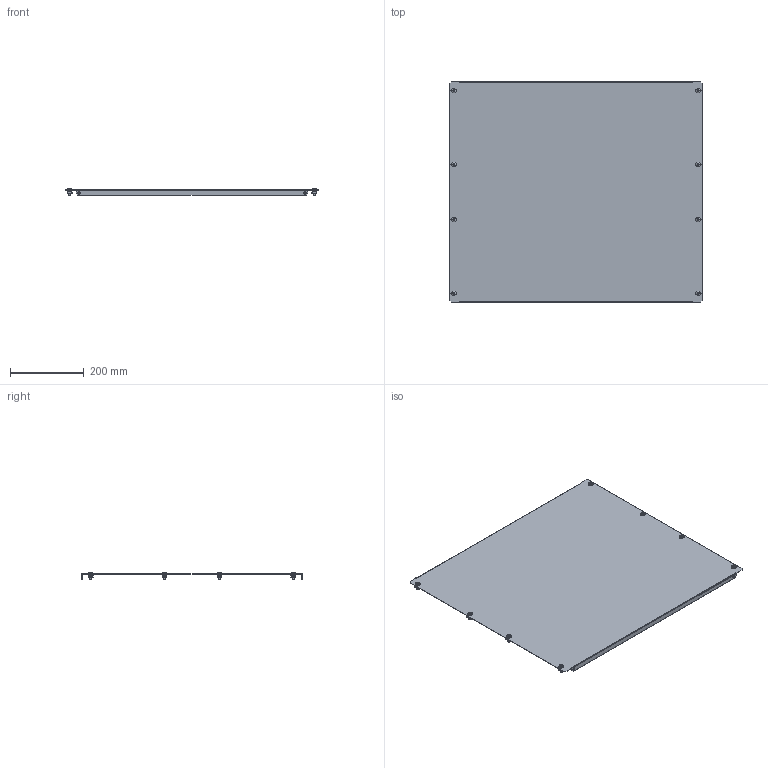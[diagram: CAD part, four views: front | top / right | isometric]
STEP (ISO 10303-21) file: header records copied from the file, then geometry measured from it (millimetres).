
FILE_DESCRIPTION (( 'STEP AP203' ), '1' );
FILE_NAME ('MA1.400.060000.01.00 Ïëàñòðîí Â600 Ø800 EKF AleSta-FP60M800.STEP', '2024-12-02T12:49:27', ( '' ), ( '' ), 'SwSTEP 2.0', 'SolidWorks 2021', '' );
FILE_SCHEMA (( 'CONFIG_CONTROL_DESIGN' ));
Length unit declared in the file: millimetre
Products named in the file (6): Ãàéêà çàêëàäíàÿ; Îáîëî÷êà ãàéêè çàêëàäíîé; pan head cross recess screw_din_DIN EN ISO 7045 - M6 x 16 - Z - 16N; MA1.400.060000.01.00 Ïëàñòðîí Â600 Ø800 EKF AleSta-FP60M800; MA1.400.060000.01.01 Ïëàñòðîí Â50 Ø600 EKF AleSta_Copy of Copy of ˜=800; Ãàéêà çàêëàäêàÿ Ì6
Assembly tree (19 placements, depth 3):
  MA1.400.060000.01.00 Ïëàñòðîí Â600 Ø800 EKF AleSta-FP60M800
    MA1.400.060000.01.01 Ïëàñòðîí Â50 Ø600 EKF AleSta_Copy of Copy of ˜=800
    Ãàéêà çàêëàäíàÿ  x8
      Îáîëî÷êà ãàéêè çàêëàäíîé
      Ãàéêà çàêëàäêàÿ Ì6
    pan head cross recess screw_din_DIN EN ISO 7045 - M6 x 16 - Z - 16N  x8
Bounding box: 686 x 599 x 20.48 mm (x, y, z)
Volume: 436179.3 mm3; surface area: 868935.1 mm2
Topology: 25 solids, 25 shells, 1330 faces, 2938 edges, 1666 vertices
Faces by surface type: plane 842, cylinder 280, bspline 128, cone 56, torus 16, sphere 8
Full cylindrical faces by diameter (mm): 6 x16, 6.5 x4, 7 x8, 12 x8
Entity records: 8220 total; most frequent: CARTESIAN_POINT 1773, DIRECTION 1122, ORIENTED_EDGE 1096, EDGE_CURVE 548, VECTOR 384, LINE 384, AXIS2_PLACEMENT_3D 369, VERTEX_POINT 332
